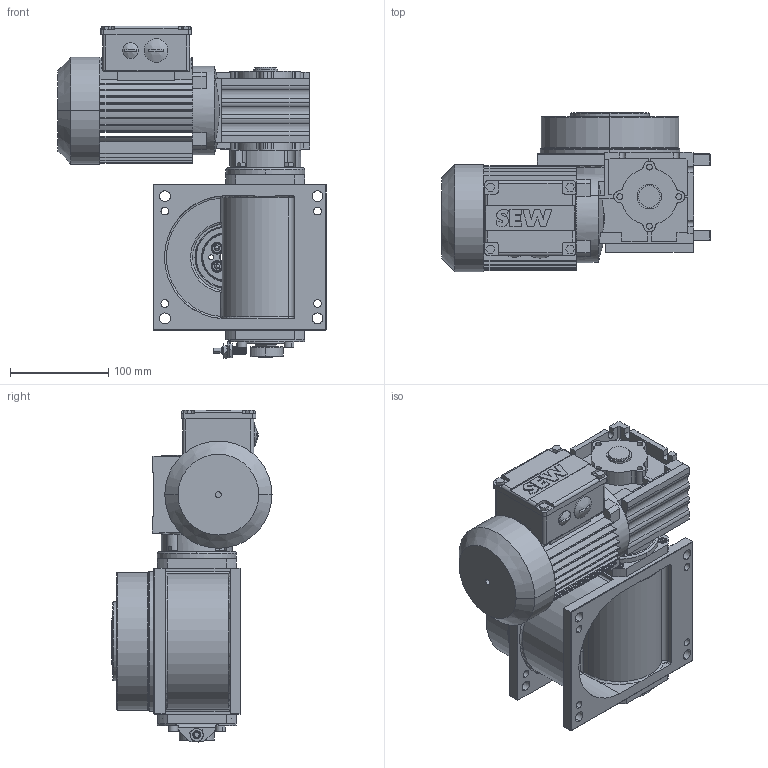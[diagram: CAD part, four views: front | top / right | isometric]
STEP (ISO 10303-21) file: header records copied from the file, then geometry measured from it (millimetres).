
FILE_DESCRIPTION (( 'STEP AP214' ), '1' );
FILE_NAME ('M140_SEW_WAF10_E.STEP', '2021-01-22T15:50:26', ( '' ), ( '' ), 'SwSTEP 2.0', 'SolidWorks 2020', '' );
FILE_SCHEMA (( 'AUTOMOTIVE_DESIGN' ));
Length unit declared in the file: millimetre
Products named in the file (1): M140_SEW_WAF10_E
Bounding box: 273 x 162.7 x 337.29 mm (x, y, z)
Surface area: 389509 mm2 (no closed solid volume)
Topology: 0 solids, 46 shells, 1381 faces, 4503 edges, 2992 vertices
Faces by surface type: plane 695, cylinder 492, cone 93, bspline 53, torus 48
Entity records: 70285 total; most frequent: CARTESIAN_POINT 16147, DIRECTION 8179, ORIENTED_EDGE 7645, EDGE_CURVE 4476, VERTEX_POINT 2992, AXIS2_PLACEMENT_3D 2773, LINE 2633, VECTOR 2633
